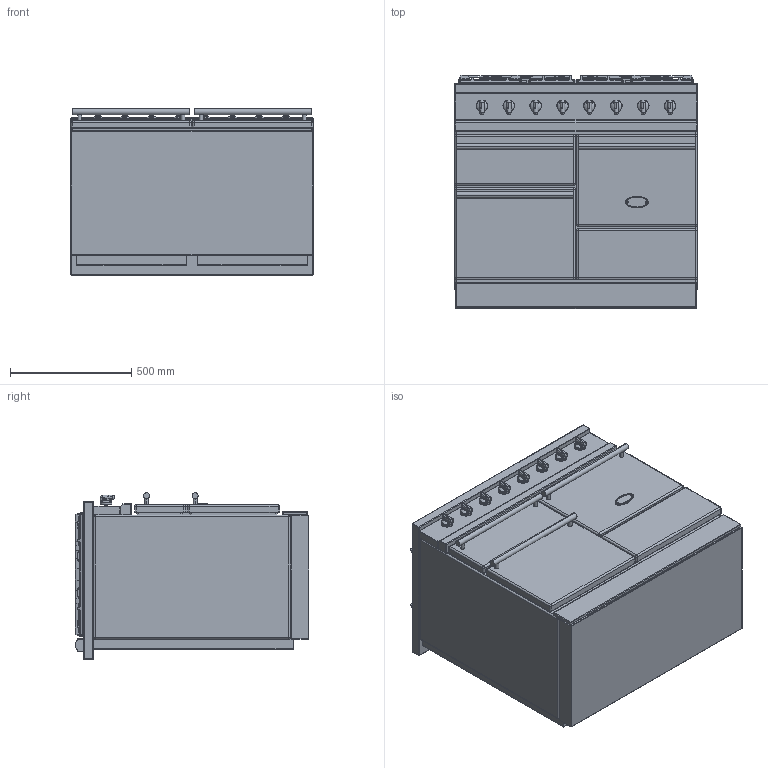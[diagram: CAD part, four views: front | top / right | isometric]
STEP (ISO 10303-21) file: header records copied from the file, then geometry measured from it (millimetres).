
FILE_DESCRIPTION((''),'2;1');
FILE_NAME('LMG1053_ASM','2022-04-13T11:18:07',('stagiaire'),(''),'CREO PARAMETRIC BY PTC INC, 2021424','CREO PARAMETRIC BY PTC INC, 2021424','');
FILE_SCHEMA(('AP203_CONFIGURATION_CONTROLLED_3D_DESIGN_OF_MECHANICAL_PARTS_AND_ASSEMBLIES_MIM_LF { 1 0 10303 403 2 1 2 }'));
Products named in the file (20): BASE_EXPORT_CHAGNY_MODERN; 65064012; 19150009; 88064012_ASM; 65049009; 65650001; BASE_EXPORT_CHAGNY_MODERN_ASM; TABLE_1000_CLASSIQUE; 3KW; 5KW; 1_5KW; 4KW; 6537025; 65149005; 90000488_ASM; 6537024; 90000487_ASM; CHEMINEE_2020_LG371_EXPORT_STEP; TABLE_1000_CLASSIQUE_ASM; LMG1053_ASM
Assembly tree (37 placements, depth 4):
  LMG1053_ASM
    BASE_EXPORT_CHAGNY_MODERN_ASM
      BASE_EXPORT_CHAGNY_MODERN
      88064012_ASM  x8
        65064012
        19150009
      65049009
      65650001
    TABLE_1000_CLASSIQUE_ASM
      TABLE_1000_CLASSIQUE
      3KW  x2
      5KW
      1_5KW
      4KW
      90000488_ASM  x2
        6537025
        65149005
      90000487_ASM  x2
        6537024
        65149005
      CHEMINEE_2020_LG371_EXPORT_STEP  x2
Bounding box: 1000 x 965 x 687.75 mm (x, y, z)
Volume: 533627417 mm3; surface area: 8832393.1 mm2
Topology: 50 solids, 50 shells, 5879 faces, 16013 edges, 10239 vertices
Faces by surface type: cylinder 1910, plane 1754, bspline 1354, sphere 338, cone 327, torus 154, extrusion 42
Entity records: 128961 total; most frequent: CARTESIAN_POINT 45392, ORIENTED_EDGE 13256, DIRECTION 12072, EDGE_CURVE 6628, PRESENTATION_STYLE_ASSIGNMENT 4356, STYLED_ITEM 4356, CURVE_STYLE 4212, AXIS2_PLACEMENT_3D 4102
